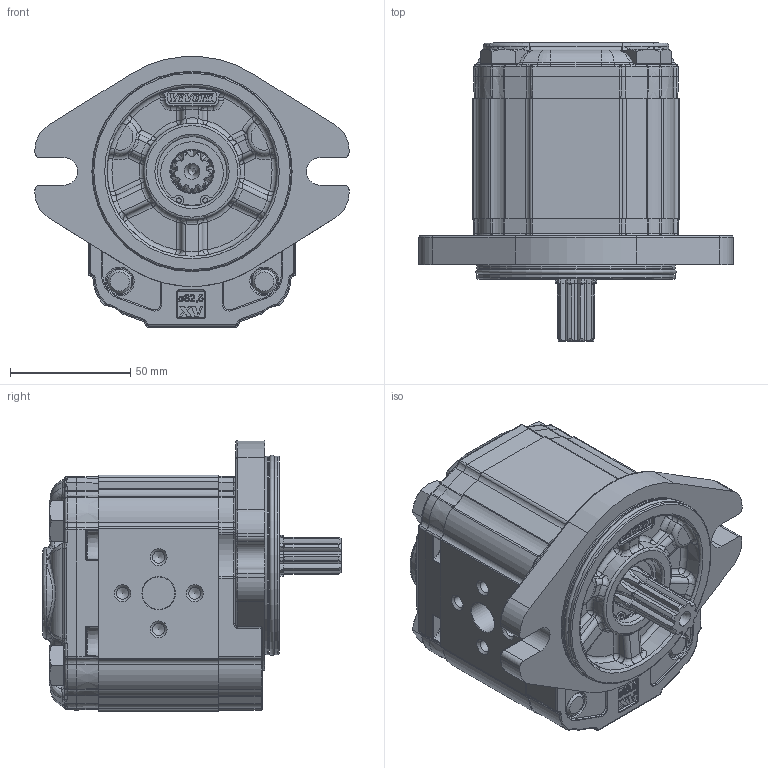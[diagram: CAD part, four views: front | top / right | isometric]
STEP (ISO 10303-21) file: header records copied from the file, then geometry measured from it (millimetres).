
FILE_DESCRIPTION(/* description */ ('Unknown'),/* implementation_level */ '2;1');
FILE_NAME(/* name */ 'X2M4331IOOF',/* time_stamp */ '2021-04-26T10:36:31+02:00',/* author */ ('Unknown'),/* organization */ ('Unknown'),/* preprocessor_version */ 'ST-DEVELOPER v16.7',/* originating_system */ 'Solid Edge',/* authorisation */ 'Unknown');
FILE_SCHEMA (('AUTOMOTIVE_DESIGN {1 0 10303 214 3 1 1}'));
Products named in the file (5): X2M4331IOOF; X2M31; 2I; X2OOH50; XM219-F
Assembly tree (4 placements, depth 2):
  X2M4331IOOF
    X2M31
    2I
    X2OOH50
    XM219-F
Bounding box: 130.38 x 123.7 x 112.3 mm (x, y, z)
Volume: 682725.6 mm3; surface area: 111841.1 mm2
Topology: 4 solids, 5 shells, 2141 faces, 5291 edges, 3226 vertices
Faces by surface type: cylinder 635, plane 575, bspline 513, torus 263, cone 117, sphere 38
Full cylindrical faces by diameter (mm): 2 x2, 4.917 x4, 5 x4, 10 x4, 10.5 x4, 11 x2, 11.5 x4, 13.5 x2, 16 x4, 17.42 x1, 18 x1, 20.595 x1, 23.332 x1, 25.834 x1, 28.5 x1, 28.56 x1, 28.57 x1, 28.8 x1, 30.4 x1, 79.6 x2, 82.5 x2
Entity records: 88508 total; most frequent: CARTESIAN_POINT 28313, ORIENTED_EDGE 10146, DIRECTION 8580, EDGE_CURVE 5073, AXIS2_PLACEMENT_3D 3279, VERTEX_POINT 3152, FACE_BOUND 2367, EDGE_LOOP 2358
